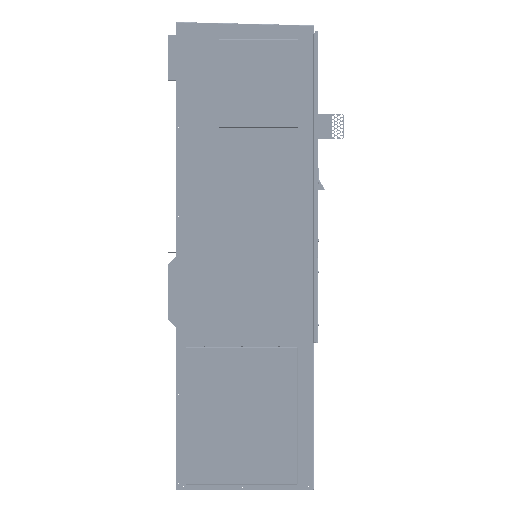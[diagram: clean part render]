
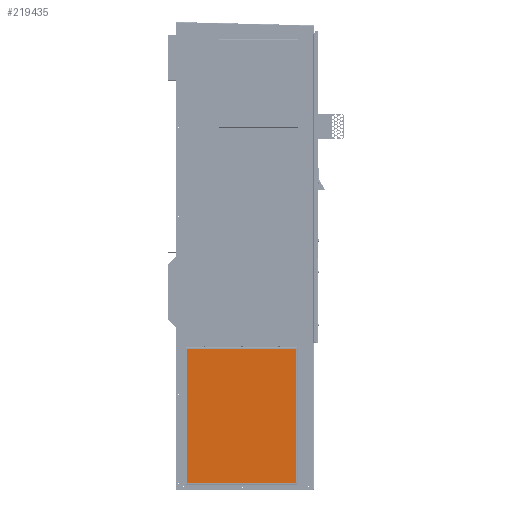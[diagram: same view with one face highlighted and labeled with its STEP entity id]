
A CAD part, top view. The second image highlights one B-rep face of the part: STEP entity #219435.
In plain terms, the highlighted planar face has unit normal (1, 0, 0) by its records, which use the part's own axes.
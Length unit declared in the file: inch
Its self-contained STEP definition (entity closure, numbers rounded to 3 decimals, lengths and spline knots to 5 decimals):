
#11564 = VERTEX_POINT ( 'NONE', #247994 ) ;
#34834 = FACE_OUTER_BOUND ( 'NONE', #234387, .T. ) ;
#41251 = DIRECTION ( 'NONE',  ( 0., 1., 0. ) ) ;
#43274 = LINE ( 'NONE', #125575, #46622 ) ;
#46622 = VECTOR ( 'NONE', #207888, 39.37008 ) ;
#54029 = CARTESIAN_POINT ( 'NONE',  ( 14.23134, 1.472, 0.25216 ) ) ;
#66511 = ORIENTED_EDGE ( 'NONE', *, *, #255029, .T. ) ;
#74038 = LINE ( 'NONE', #226143, #226709 ) ;
#76213 = LINE ( 'NONE', #97808, #144523 ) ;
#79452 = EDGE_CURVE ( 'NONE', #223514, #11564, #255450, .T. ) ;
#79574 = ORIENTED_EDGE ( 'NONE', *, *, #230165, .T. ) ;
#84755 = ORIENTED_EDGE ( 'NONE', *, *, #202156, .T. ) ;
#89519 = CARTESIAN_POINT ( 'NONE',  ( 14.23134, 24.92143, 9.72916 ) ) ;
#97808 = CARTESIAN_POINT ( 'NONE',  ( 14.23134, 13.19671, 19.20616 ) ) ;
#116714 = DIRECTION ( 'NONE',  ( 0., -1., 0. ) ) ;
#117089 = CARTESIAN_POINT ( 'NONE',  ( 14.23134, 24.92143, 0.25216 ) ) ;
#125575 = CARTESIAN_POINT ( 'NONE',  ( 14.23134, 1.472, 9.72916 ) ) ;
#139376 = VERTEX_POINT ( 'NONE', #166464 ) ;
#143302 = VECTOR ( 'NONE', #236563, 39.37008 ) ;
#144523 = VECTOR ( 'NONE', #116714, 39.37008 ) ;
#156220 = PLANE ( 'NONE',  #232761 ) ;
#158394 = VERTEX_POINT ( 'NONE', #54029 ) ;
#166464 = CARTESIAN_POINT ( 'NONE',  ( 14.23134, 1.472, 19.20616 ) ) ;
#177805 = DIRECTION ( 'NONE',  ( 0., 0., 1. ) ) ;
#197511 = CARTESIAN_POINT ( 'NONE',  ( 14.23134, 24.92143, 0.25216 ) ) ;
#199393 = DIRECTION ( 'NONE',  ( 1., 0., 0. ) ) ;
#202156 = EDGE_CURVE ( 'NONE', #158394, #223514, #74038, .T. ) ;
#207888 = DIRECTION ( 'NONE',  ( 0., 0., -1. ) ) ;
#219435 = ADVANCED_FACE ( 'NONE', ( #34834 ), #156220, .T. ) ;
#223514 = VERTEX_POINT ( 'NONE', #197511 ) ;
#224570 = ORIENTED_EDGE ( 'NONE', *, *, #79452, .T. ) ;
#226143 = CARTESIAN_POINT ( 'NONE',  ( 14.23134, 13.19671, 0.25216 ) ) ;
#226709 = VECTOR ( 'NONE', #41251, 39.37008 ) ;
#230165 = EDGE_CURVE ( 'NONE', #139376, #158394, #43274, .T. ) ;
#232761 = AXIS2_PLACEMENT_3D ( 'NONE', #117089, #199393, #177805 ) ;
#234387 = EDGE_LOOP ( 'NONE', ( #224570, #66511, #79574, #84755 ) ) ;
#236563 = DIRECTION ( 'NONE',  ( 0., 0., 1. ) ) ;
#247994 = CARTESIAN_POINT ( 'NONE',  ( 14.23134, 24.92143, 19.20616 ) ) ;
#255029 = EDGE_CURVE ( 'NONE', #11564, #139376, #76213, .T. ) ;
#255450 = LINE ( 'NONE', #89519, #143302 ) ;
